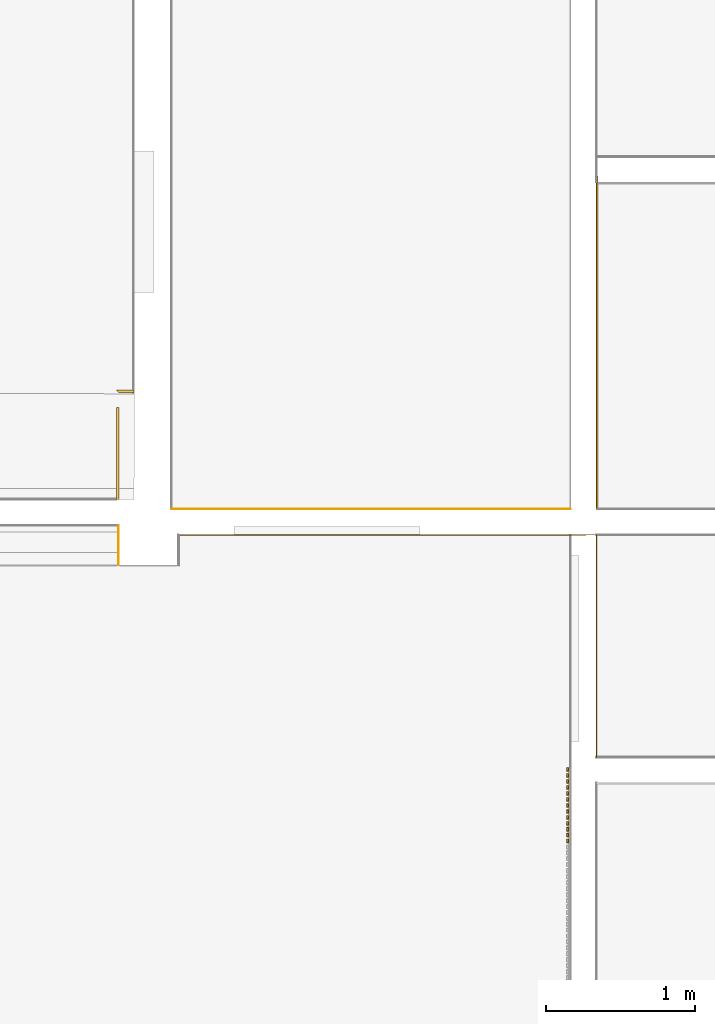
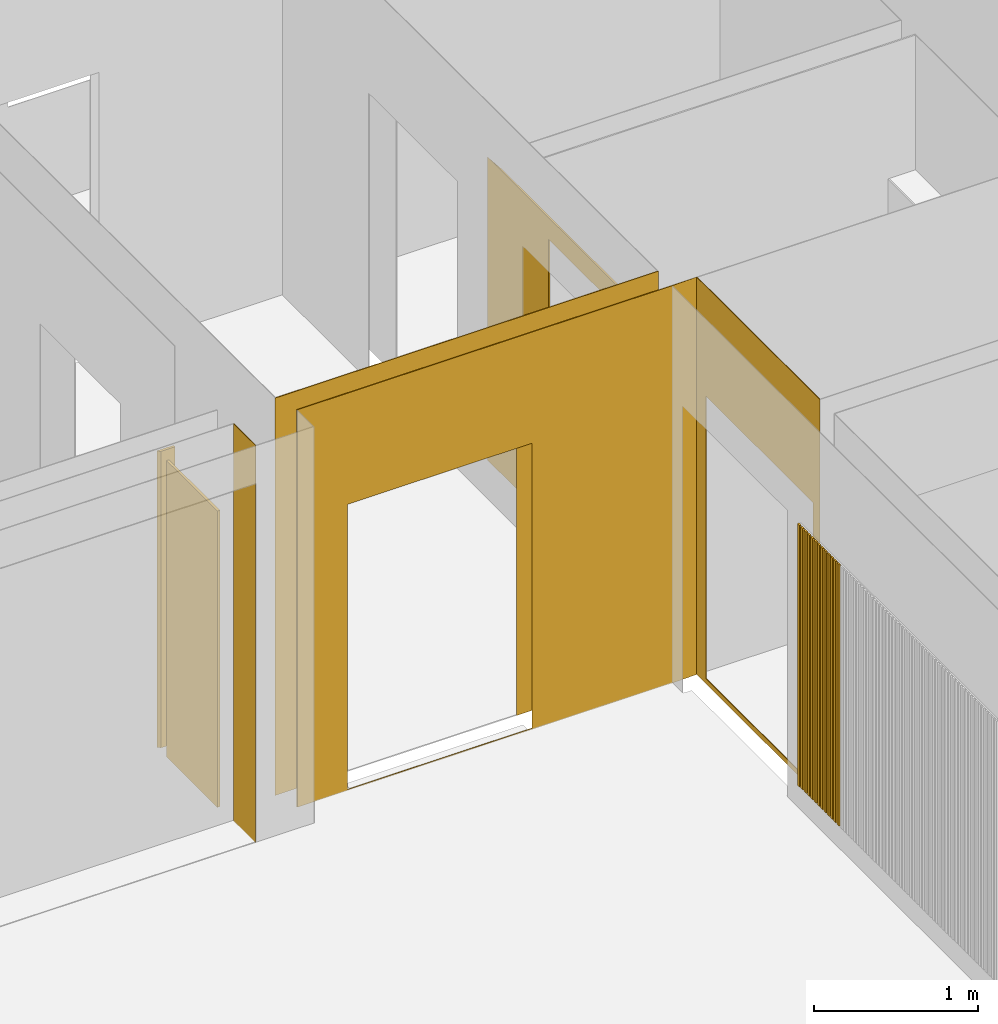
# One storey, part 5 of 33: 20 coverings, 4 openings.
"""IFC2X3 building model written with IfcOpenShell, lengths in millimetres."""

from ifc_helpers import new_model, entity, si_unit, converted_unit, derived_unit, money_unit, direction, frame, origin_with_axes, origin_2d_with_axis, place, context, subcontext, project, spatial, polyline, rectangle, outline, extrude, faceted_brep, source, transform, mapped, material, type_object, element, save


model = new_model("IFC2X3")

# Units and contexts
model_context = context("Model", 3, precision=0.01, world=origin_with_axes(), true_north=direction((0.0, 1.0)))
body_context = subcontext(model_context, "Body", "Model", "MODEL_VIEW")
ifc_project = project(units=[si_unit("LENGTHUNIT", "METRE", prefix="MILLI"), si_unit("AREAUNIT", "SQUARE_METRE"), si_unit("VOLUMEUNIT", "CUBIC_METRE"), converted_unit("PLANEANGLEUNIT", "DEGREE", entity("IfcPlaneAngleMeasure", 0.0174532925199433), si_unit("PLANEANGLEUNIT", "RADIAN"), dimensions=[0, 0, 0, 0, 0, 0, 0]), money_unit("EUR"), converted_unit("TIMEUNIT", "Year", entity("IfcTimeMeasure", 31556926.0), si_unit("TIMEUNIT", "SECOND"), dimensions=[0, 0, 1, 0, 0, 0, 0]), si_unit("MASSUNIT", "GRAM", prefix="KILO"), si_unit("THERMODYNAMICTEMPERATUREUNIT", "DEGREE_CELSIUS"), si_unit("LUMINOUSINTENSITYUNIT", "LUMEN"), si_unit("ENERGYUNIT", "JOULE", prefix="MEGA"), derived_unit("THERMALCONDUCTANCEUNIT", [(si_unit("POWERUNIT", "WATT"), 1), (si_unit("LENGTHUNIT", "METRE"), -1), (si_unit("THERMODYNAMICTEMPERATUREUNIT", "KELVIN"), -1)]), derived_unit("SPECIFICHEATCAPACITYUNIT", [(si_unit("ENERGYUNIT", "JOULE"), 1), (si_unit("MASSUNIT", "GRAM", prefix="KILO"), -1), (si_unit("THERMODYNAMICTEMPERATUREUNIT", "KELVIN"), -1)]), derived_unit("MASSDENSITYUNIT", [(si_unit("MASSUNIT", "GRAM", prefix="KILO"), 1), (si_unit("VOLUMEUNIT", "CUBIC_METRE"), -1)])], contexts=[model_context])

# Site, building, storey
site_placement = place(None, origin_with_axes())
site = spatial("IfcSite", under=ifc_project, at=site_placement, Name="Paldiski mnt 245/1, Tallinn, Harjumaa", CompositionType="COMPLEX")
building_placement = place(site_placement, origin_with_axes())
building = spatial("IfcBuilding", under=site, at=building_placement, Name="RKAS Hoone üldnimetus (kasutust iseloomustav) -> IFC Project Manager -> SOLIBRI", CompositionType="ELEMENT")
storey_placement = place(building_placement, origin_with_axes())
storey = spatial("IfcBuildingStorey", under=building, at=storey_placement, Name="Esimene korrus", CompositionType="ELEMENT", Elevation=0.0)

# Coverings
ifc_material_1 = material(Name="GENERIC - PREFABRICATED")
covering_type_1 = type_object("IfcCoveringType", Name="GENERIC - PREFABRICATED", PredefinedType="CLADDING")
shared_shape = source(origin_with_axes(), body_context, "Body", "Brep", [
    faceted_brep([(0.0, 0.9999999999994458, 0.0), (0.0, -24.00000000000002, 0.0), (0.0, -24.00000000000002, 1940.0), (0.0, 0.9999999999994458, 1940.0), (12.00000000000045, 0.9999999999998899, 0.0), (12.00000000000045, -24.00000000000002, 0.0), (12.00000000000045, -24.00000000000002, 1940.0), (12.00000000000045, 0.9999999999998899, 1940.0)], [[[0, 1, 2, 3]], [[1, 0, 4, 5]], [[2, 1, 5, 6]], [[2, 6, 7, 3]], [[0, 3, 7, 4]], [[6, 5, 4, 7]]]),
])
for number, where, z_axis, x_axis, name in (
    (1, (-38627.00009801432, -8306.08474771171, 200.0), (0.0, 0.0, 1.0), (1.0, 0.0, 0.0), "SM1"),
    (2, (-38627.00009801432, -8385.084747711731, 200.0), (0.0, 0.0, 1.0), (1.0, 0.0, 0.0), "SM1"),
    (3, (-38627.00009801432, -8023.584747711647, 200.0), (0.0, 0.0, 1.0), (1.0, 0.0, 0.0), "SM1"),
    (4, (-38627.00009801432, -7983.084747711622, 200.0), (0.0, 0.0, 1.0), (1.0, 0.0, 0.0), "SM1"),
    (5, (-38627.00009801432, -8345.584747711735, 200.0), (0.0, 0.0, 1.0), (1.0, 0.0, 0.0), "SM1"),
    (6, (-38627.00009801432, -8266.584747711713, 200.0), (0.0, 0.0, 1.0), (1.0, 0.0, 0.0), "SM1"),
    (7, (-38627.00009801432, -8464.084747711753, 200.0), (0.0, 0.0, 1.0), (1.0, 0.0, 0.0), "SM1"),
    (8, (-38627.00009801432, -8226.084747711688, 200.0), (0.0, 0.0, 1.0), (1.0, 0.0, 0.0), "SM1"),
    (9, (-38627.00009801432, -8424.584747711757, 200.0), (0.0, 0.0, 1.0), (1.0, 0.0, 0.0), "SM1"),
    (10, (-38627.00009801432, -8185.58474771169, 200.0), (0.0, 0.0, 1.0), (1.0, 0.0, 0.0), "SM1"),
    (11, (-38627.00009801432, -8145.084747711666, 200.0), (0.0, 0.0, 1.0), (1.0, 0.0, 0.0), "SM1"),
    (12, (-38627.00009801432, -8104.584747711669, 200.0), (0.0, 0.0, 1.0), (1.0, 0.0, 0.0), "SM1"),
    (13, (-38627.00009801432, -8064.084747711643, 200.0), (0.0, 0.0, 1.0), (1.0, 0.0, 0.0), "SM1"),
):
    element("IfcCovering", number, at=place(storey_placement, frame(where, z_axis=z_axis, x_axis=x_axis)), inside=storey, type_object=covering_type_1, material=ifc_material_1, Name=name, PredefinedType="CLADDING", context=body_context, shape_type="MappedRepresentation", body=[
        mapped(shared_shape, transform((0.0, 0.0, 0.0))),
    ])
ifc_material_2 = material(Name="SA- Värv SM10(tumehall)")
covering_type_2 = type_object("IfcCoveringType", Name="SA- Värv SM10(tumehall) 5", PredefinedType="CLADDING")
covering_1_placement = place(storey_placement, frame((-41639.99997950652, -6349.99999999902, 0.0), z_axis=(0.0, 0.0, 1.0), x_axis=(0.0, -1.0, 0.0)))
element("IfcCovering", 14, at=covering_1_placement, inside=storey, type_object=covering_type_2, material=ifc_material_2, Name="SM10", PredefinedType="CLADDING", context=body_context, shape_type="SweptSolid", body=[
    extrude(outline(polyline([(4.999981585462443, -5.000000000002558), (269.6298129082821, -5.000000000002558), (269.6334210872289, 0.0), (0.0, 0.0), (4.999981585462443, -5.000000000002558)])), origin_with_axes(), (0.0, 0.0, 1.0), 2950.0),
])

# Covering, opening
ifc_material_3 = material(Name="SA- Laminaat SM2(kollane laminaat)")
covering_type_3 = type_object("IfcCoveringType", Name="SA- Laminaat SM2(kollane laminaat) 12", PredefinedType="CLADDING")
covering_2_placement = place(storey_placement, frame((-38430.00008940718, -4044.999999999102, 50.0), z_axis=(0.0, 0.0, 1.0), x_axis=(0.0, -1.0, 0.0)))
covering_2 = element("IfcCovering", 15, at=covering_2_placement, inside=storey, type_object=covering_type_3, material=ifc_material_3, Name="SM2", PredefinedType="CLADDING", context=body_context, shape_type="SweptSolid", body=[
    extrude(outline(polyline([(-169.9999999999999, 0.0), (2200.000000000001, 0.0), (2200.000000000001, 12.00000000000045), (0.0, 12.00000000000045), (-169.9999999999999, 0.0)])), origin_with_axes(), (0.0, 0.0, 1.0), 2250.0),
])
opening_1_placement = place(covering_2_placement, frame((-4044.999999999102, 38430.00008940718, -50.0), z_axis=(0.0, 0.0, 1.0), x_axis=(0.0, 1.0, 0.0)))
element("IfcOpeningElement", 16, at=opening_1_placement, cuts=covering_2, Name="AVA", ObjectType="OPENING", context=body_context, shape_type="SweptSolid", body=[
    extrude(rectangle(XDim=1251.046575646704, YDim=2138.764937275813, at=origin_2d_with_axis()), frame((-38442.00008940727, -5237.503696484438, 1069.382468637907), z_axis=(-1.0, 0.0, 0.0), x_axis=(0.0, -1.0, 0.0)), (0.0, 0.0, -1.0), 36.00000000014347),
])

ifc_material_4 = material(Name="SA- Värv SM5(valge)")
covering_type_4 = type_object("IfcCoveringType", Name="SA- Värv SM5(valge) 5", PredefinedType="CLADDING")
covering_3_placement = place(storey_placement, frame((-41240.00000000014, -6414.999999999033, 0.0), z_axis=(0.0, 0.0, 1.0), x_axis=(1.0, 0.0, 0.0)))
covering_3 = element("IfcCovering", 17, at=covering_3_placement, inside=storey, type_object=covering_type_4, material=ifc_material_4, Name="SM5", PredefinedType="CLADDING", context=body_context, shape_type="SweptSolid", body=[
    extrude(outline(polyline([(5.000000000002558, -4.999999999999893), (2639.999910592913, -4.999999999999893), (2809.999910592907, 0.0), (0.0, 0.0), (5.000000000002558, -4.999999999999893)])), origin_with_axes(), (0.0, 0.0, 1.0), 2950.0),
])
opening_2_placement = place(covering_3_placement, frame((41240.00000000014, 6414.999999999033, 0.0), z_axis=(0.0, 0.0, 1.0), x_axis=(1.0, 0.0, 0.0)))
element("IfcOpeningElement", 18, at=opening_2_placement, cuts=covering_3, Name="AVA", ObjectType="OPENING", context=body_context, shape_type="SweptSolid", body=[
    extrude(rectangle(XDim=1295.409130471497, YDim=2117.130212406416, at=origin_2d_with_axis()), frame((-40234.32687752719, -6424.999999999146, 1066.565106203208), z_axis=(0.0, -1.0, 0.0), x_axis=(1.0, 0.0, 0.0)), (0.0, 0.0, -1.0), 15.0000000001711),
])

covering_4_placement = place(storey_placement, frame((-41290.00000000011, -6244.999999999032, 0.0), z_axis=(0.0, 0.0, 1.0), x_axis=(1.0, 0.0, 0.0)))
covering_4 = element("IfcCovering", 19, at=covering_4_placement, inside=storey, type_object=covering_type_4, material=ifc_material_4, Name="SM5", PredefinedType="CLADDING", context=body_context, shape_type="SweptSolid", body=[
    extrude(outline(polyline([(0.0, 0.0), (2689.999910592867, 0.0), (2689.999910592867, 4.999999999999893), (4.999999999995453, 4.999999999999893), (0.0, 0.0)])), origin_with_axes(), (0.0, 0.0, 1.0), 2950.0),
])
opening_3_placement = place(covering_4_placement, frame((41290.00000000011, 6244.999999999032, 0.0), z_axis=(0.0, 0.0, 1.0), x_axis=(1.0, 0.0, 0.0)))
element("IfcOpeningElement", 20, at=opening_3_placement, cuts=covering_4, Name="AVA", ObjectType="OPENING", context=body_context, shape_type="SweptSolid", body=[
    extrude(rectangle(XDim=1286.596313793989, YDim=2152.94791789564, at=origin_2d_with_axis()), frame((-40237.96089997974, -6249.999999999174, 1059.892768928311), z_axis=(0.0, -1.0, 0.0), x_axis=(1.0, 0.0, 0.0)), (0.0, 0.0, -1.0), 15.00000000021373),
])

ifc_material_5 = material(Name="SA- Värv SM7(beez)")
covering_type_5 = type_object("IfcCoveringType", Name="SA- Värv SM7(beez) 5", PredefinedType="CLADDING")
covering_5_placement = place(storey_placement, frame((-38430.00008940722, -6414.999999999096, 0.0), z_axis=(0.0, 0.0, 1.0), x_axis=(0.0, -1.0, 0.0)))
covering_5 = element("IfcCovering", 21, at=covering_5_placement, inside=storey, type_object=covering_type_5, material=ifc_material_5, Name="SM7", PredefinedType="CLADDING", context=body_context, shape_type="SweptSolid", body=[
    extrude(outline(polyline([(0.0, 0.0), (1500.000000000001, 0.0), (1495.000000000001, 5.000000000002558), (5.000000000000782, 5.000000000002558), (0.0, 0.0)])), origin_with_axes(), (0.0, 0.0, 1.0), 2950.0),
])
opening_4_placement = place(covering_5_placement, frame((-6414.999999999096, 38430.00008940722, 0.0), z_axis=(0.0, 0.0, 1.0), x_axis=(0.0, 1.0, 0.0)))
element("IfcOpeningElement", 22, at=opening_4_placement, cuts=covering_5, Name="AVA", ObjectType="OPENING", context=body_context, shape_type="SweptSolid", body=[
    extrude(rectangle(XDim=1300.122151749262, YDim=2096.812746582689, at=origin_2d_with_axis()), frame((-38435.00008940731, -7179.942268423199, 1086.089869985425), z_axis=(-1.0, 0.0, 0.0), x_axis=(0.0, -1.0, 0.0)), (0.0, 0.0, -1.0), 15.00000000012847),
])

# Coverings
ifc_material_6 = material(Name="SA- Laudis SM3(vert. laudis)")
covering_type_6 = type_object("IfcCoveringType", Name="SA- Laudis SM3(vert. laudis) 18", PredefinedType="CLADDING")
covering_6_placement = place(storey_placement, frame((-41639.99997823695, -5460.02151921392, 0.0), z_axis=(0.0, 0.0, 1.0), x_axis=(0.0, -1.0, 0.0)))
element("IfcCovering", 23, at=covering_6_placement, inside=storey, type_object=covering_type_6, material=ifc_material_6, Name="SM14", PredefinedType="CLADDING", context=body_context, shape_type="SweptSolid", body=[
    extrude(outline(polyline([(100.0000000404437, -18.00000000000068), (719.0113135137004, -18.00000000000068), (719.0113135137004, 0.0), (99.99999999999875, 0.0), (100.0000000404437, -18.00000000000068)])), origin_with_axes(), (0.0, 0.0, 1.0), 2200.0),
])
covering_7_placement = place(storey_placement, frame((-41539.99997823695, -5460.02151898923, 0.0), z_axis=(0.0, 0.0, 1.0), x_axis=(-1.0, 0.0, 0.0)))
element("IfcCovering", 24, at=covering_7_placement, inside=storey, type_object=covering_type_6, material=ifc_material_6, Name="SM14", PredefinedType="CLADDING", context=body_context, shape_type="SweptSolid", body=[
    extrude(outline(polyline([(0.0, -17.99999999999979), (118.0000000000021, -17.99999999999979), (100.0000000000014, 0.0), (0.0, 0.0), (0.0, -17.99999999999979)])), origin_with_axes(), (0.0, 0.0, 1.0), 2200.0),
])

save(model, "model.ifc")
